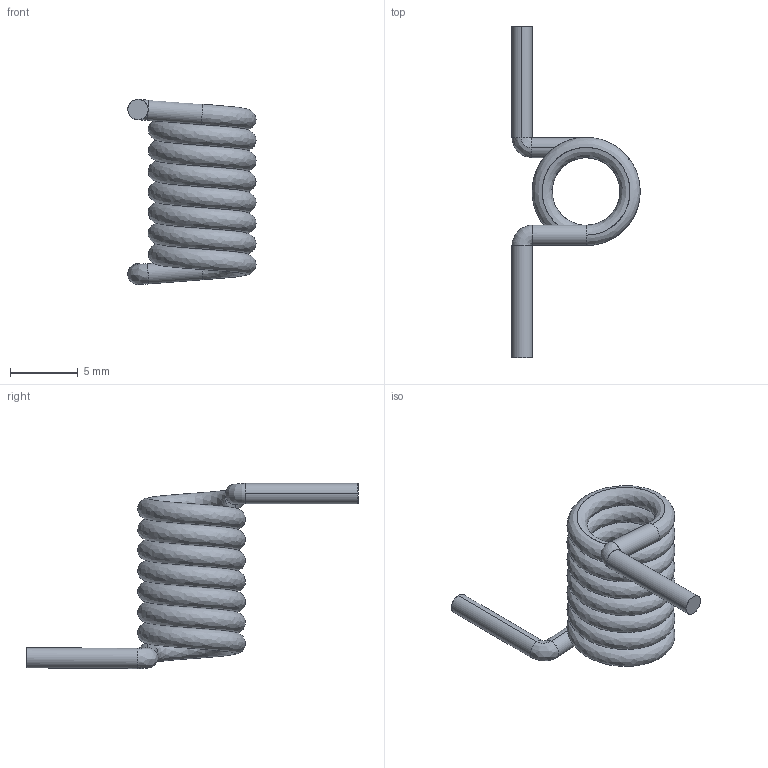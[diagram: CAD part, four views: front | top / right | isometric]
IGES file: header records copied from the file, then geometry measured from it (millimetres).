
Start section: SolidWorks IGES file using analytic representation for surfaces
Global section: file name: C:\Users\cbrechard\Desktop\CC 1422 E\1422.232.10.IGS; native system: SolidWorks 2008; preprocessor: SolidWorks 2008; author: cbrechard; date: 120123.145704; units: millimetre
Bounding box: 9.5 x 24.58 x 13.71 mm (x, y, z)
Surface area: 854.2 mm2 (no closed solid volume)
Topology: 0 solids, 0 shells, 17 faces, 102 edges, 100 vertices
Faces by surface type: bspline 9, revolution 8
